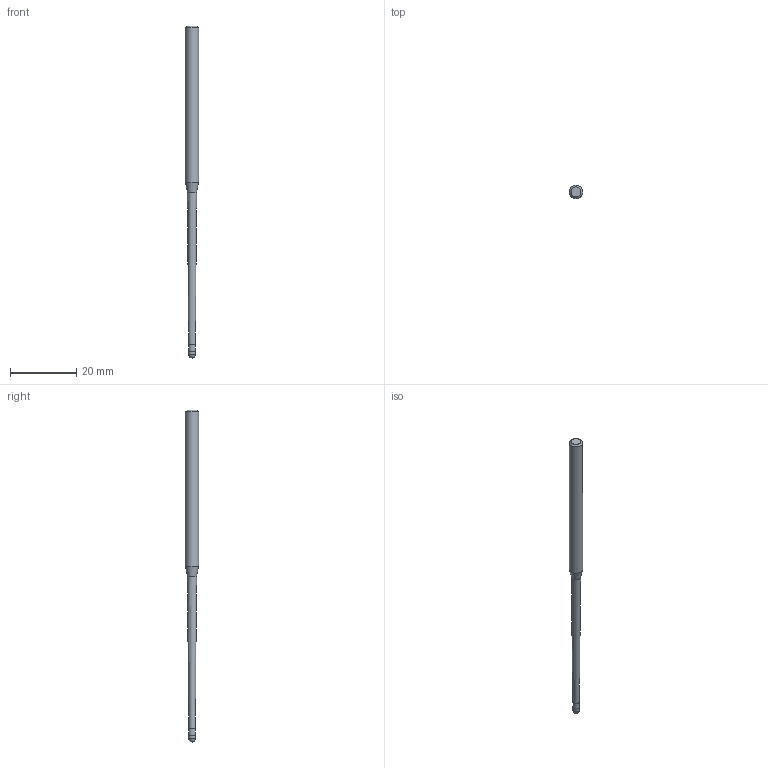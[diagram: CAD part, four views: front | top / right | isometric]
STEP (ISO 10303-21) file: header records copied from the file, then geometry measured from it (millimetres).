
FILE_DESCRIPTION((''),'2;1');
FILE_NAME('C:\Users\nsx150\AppData\Local\Temp\Mastercam 2021\SNAKH10GOD\TEMP.step','2021-10-21T13:33:07',(''),(''),'STEP Write','Mastercam 2021 ... CNC Software, Inc.','');
FILE_SCHEMA(('AUTOMOTIVE_DESIGN'));
Length unit declared in the file: millimetre
Products named in the file (1): None
Bounding box: 4 x 4 x 100 mm (x, y, z)
Volume: 837.5 mm3; surface area: 1009.3 mm2
Topology: 2 solids, 2 shells, 10 faces, 16 edges, 9 vertices
Faces by surface type: plane 3, cylinder 3, cone 3, sphere 1
Full cylindrical faces by diameter (mm): 1.985 x1, 2 x1, 4 x1
Entity records: 232 total; most frequent: DIRECTION 40, CARTESIAN_POINT 28, AXIS2_PLACEMENT_3D 20, ORIENTED_EDGE 16, EDGE_LOOP 16, STYLED_ITEM 13, ADVANCED_FACE 10, FACE_BOUND 9
